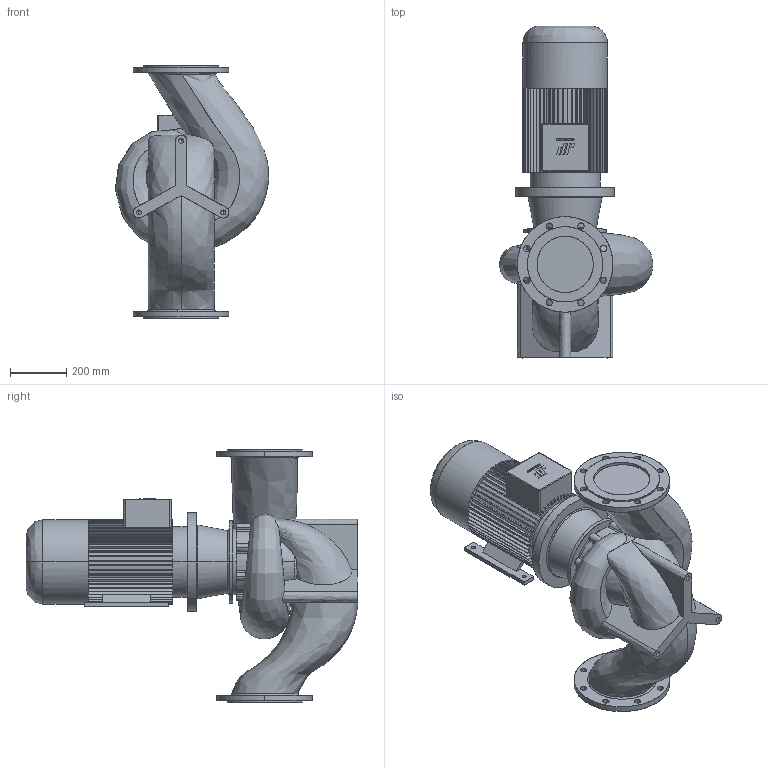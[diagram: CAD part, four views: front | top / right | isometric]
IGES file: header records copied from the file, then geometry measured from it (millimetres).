
Start section: CombiLine
Global section: file name: CLB_200-160_IEC160L_ND10.igs; native system:  By UGS Corp.; preprocessor: XPlus GENERIC/IGES 3.0; author: Stageplaats; organization: Johnson Pump Water B.V.; date: 20070718.090806; units: millimetre
Bounding box: 546 x 1180.5 x 900 mm (x, y, z)
Surface area: 3062437.8 mm2 (no closed solid volume)
Topology: 0 solids, 0 shells, 593 faces, 3597 edges, 3591 vertices
Faces by surface type: bspline 593
